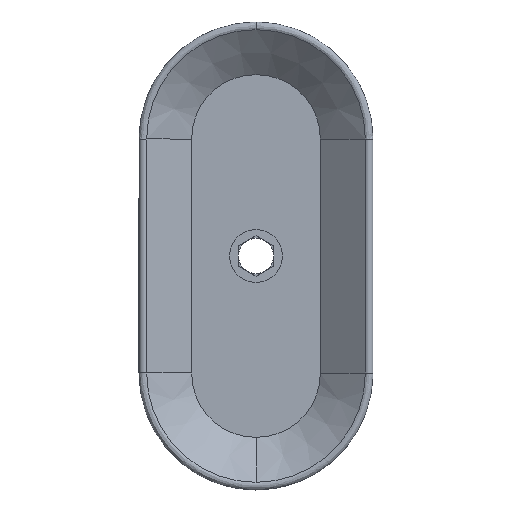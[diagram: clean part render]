
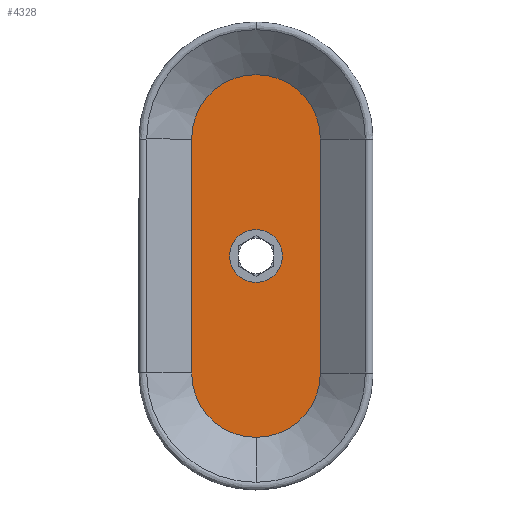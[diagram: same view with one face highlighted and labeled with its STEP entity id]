
A CAD part, front view. The second image highlights one B-rep face of the part: STEP entity #4328.
In plain terms, the highlighted planar face has unit normal (0, -1, 0).
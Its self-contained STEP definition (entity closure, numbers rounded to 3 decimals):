
#31 = VERTEX_POINT ( 'NONE', #2892 ) ;
#75 = CIRCLE ( 'NONE', #3750, 4.5 ) ;
#166 = DIRECTION ( 'NONE',  ( 0., 0., -1. ) ) ;
#175 = ORIENTED_EDGE ( 'NONE', *, *, #6436, .T. ) ;
#240 = EDGE_CURVE ( 'NONE', #2809, #1468, #677, .T. ) ;
#375 = EDGE_CURVE ( 'NONE', #2529, #1520, #2351, .T. ) ;
#663 = CIRCLE ( 'NONE', #1131, 11. ) ;
#677 = LINE ( 'NONE', #5815, #1575 ) ;
#734 = AXIS2_PLACEMENT_3D ( 'NONE', #5247, #6449, #4139 ) ;
#739 = DIRECTION ( 'NONE',  ( -1., 0., 0. ) ) ;
#768 = VERTEX_POINT ( 'NONE', #3210 ) ;
#1113 = VERTEX_POINT ( 'NONE', #5451 ) ;
#1131 = AXIS2_PLACEMENT_3D ( 'NONE', #6768, #1591, #2263 ) ;
#1136 = ORIENTED_EDGE ( 'NONE', *, *, #6434, .T. ) ;
#1178 = DIRECTION ( 'NONE',  ( 0., -1., 0. ) ) ;
#1249 = CIRCLE ( 'NONE', #6443, 4.5 ) ;
#1468 = VERTEX_POINT ( 'NONE', #5635 ) ;
#1520 = VERTEX_POINT ( 'NONE', #2222 ) ;
#1534 = CARTESIAN_POINT ( 'NONE',  ( 11., 4.5, -20. ) ) ;
#1575 = VECTOR ( 'NONE', #6304, 1000. ) ;
#1591 = DIRECTION ( 'NONE',  ( 0., -1., 0. ) ) ;
#1751 = ORIENTED_EDGE ( 'NONE', *, *, #375, .T. ) ;
#1781 = DIRECTION ( 'NONE',  ( 0., 1., 0. ) ) ;
#1838 = FACE_BOUND ( 'NONE', #4946, .T. ) ;
#2179 = ORIENTED_EDGE ( 'NONE', *, *, #240, .T. ) ;
#2222 = CARTESIAN_POINT ( 'NONE',  ( -11., 4.5, -20. ) ) ;
#2263 = DIRECTION ( 'NONE',  ( 0., 0., 1. ) ) ;
#2351 = LINE ( 'NONE', #4062, #2471 ) ;
#2471 = VECTOR ( 'NONE', #3721, 1000. ) ;
#2490 = ORIENTED_EDGE ( 'NONE', *, *, #6531, .T. ) ;
#2529 = VERTEX_POINT ( 'NONE', #6510 ) ;
#2714 = ORIENTED_EDGE ( 'NONE', *, *, #6875, .T. ) ;
#2809 = VERTEX_POINT ( 'NONE', #1534 ) ;
#2889 = DIRECTION ( 'NONE',  ( 0., -1., 0. ) ) ;
#2892 = CARTESIAN_POINT ( 'NONE',  ( 4.5, 4.5, 0. ) ) ;
#3210 = CARTESIAN_POINT ( 'NONE',  ( 0., 4.5, 31. ) ) ;
#3317 = AXIS2_PLACEMENT_3D ( 'NONE', #6927, #2889, #166 ) ;
#3501 = DIRECTION ( 'NONE',  ( -1., 0., 0. ) ) ;
#3559 = FACE_OUTER_BOUND ( 'NONE', #4225, .T. ) ;
#3721 = DIRECTION ( 'NONE',  ( 0., 0., -1. ) ) ;
#3750 = AXIS2_PLACEMENT_3D ( 'NONE', #4599, #6984, #3501 ) ;
#4062 = CARTESIAN_POINT ( 'NONE',  ( -11., 4.5, 20. ) ) ;
#4139 = DIRECTION ( 'NONE',  ( 0., 0., 1. ) ) ;
#4173 = PLANE ( 'NONE',  #3317 ) ;
#4225 = EDGE_LOOP ( 'NONE', ( #2714, #2179, #175, #1136, #1751 ) ) ;
#4228 = ORIENTED_EDGE ( 'NONE', *, *, #6521, .T. ) ;
#4328 = ADVANCED_FACE ( 'NONE', ( #3559, #1838 ), #4173, .T. ) ;
#4421 = CARTESIAN_POINT ( 'NONE',  ( 0., 4.5, 20. ) ) ;
#4599 = CARTESIAN_POINT ( 'NONE',  ( 0., 4.5, 0. ) ) ;
#4798 = AXIS2_PLACEMENT_3D ( 'NONE', #4421, #1178, #5642 ) ;
#4946 = EDGE_LOOP ( 'NONE', ( #4228, #2490 ) ) ;
#5247 = CARTESIAN_POINT ( 'NONE',  ( 0., 4.5, -20. ) ) ;
#5451 = CARTESIAN_POINT ( 'NONE',  ( -4.5, 4.5, 0. ) ) ;
#5521 = CIRCLE ( 'NONE', #4798, 11. ) ;
#5635 = CARTESIAN_POINT ( 'NONE',  ( 11., 4.5, 20. ) ) ;
#5642 = DIRECTION ( 'NONE',  ( 0., 0., 1. ) ) ;
#5708 = CIRCLE ( 'NONE', #734, 11. ) ;
#5805 = CARTESIAN_POINT ( 'NONE',  ( 0., 4.5, 0. ) ) ;
#5815 = CARTESIAN_POINT ( 'NONE',  ( 11., 4.5, 20. ) ) ;
#6304 = DIRECTION ( 'NONE',  ( 0., 0., 1. ) ) ;
#6434 = EDGE_CURVE ( 'NONE', #768, #2529, #5521, .T. ) ;
#6436 = EDGE_CURVE ( 'NONE', #1468, #768, #663, .T. ) ;
#6443 = AXIS2_PLACEMENT_3D ( 'NONE', #5805, #1781, #739 ) ;
#6449 = DIRECTION ( 'NONE',  ( 0., -1., 0. ) ) ;
#6510 = CARTESIAN_POINT ( 'NONE',  ( -11., 4.5, 20. ) ) ;
#6521 = EDGE_CURVE ( 'NONE', #1113, #31, #1249, .T. ) ;
#6531 = EDGE_CURVE ( 'NONE', #31, #1113, #75, .T. ) ;
#6768 = CARTESIAN_POINT ( 'NONE',  ( 0., 4.5, 20. ) ) ;
#6875 = EDGE_CURVE ( 'NONE', #1520, #2809, #5708, .T. ) ;
#6927 = CARTESIAN_POINT ( 'NONE',  ( 0., 4.5, 20. ) ) ;
#6984 = DIRECTION ( 'NONE',  ( 0., 1., 0. ) ) ;
